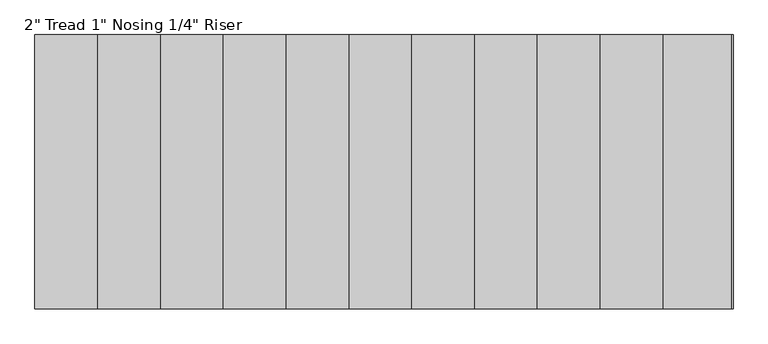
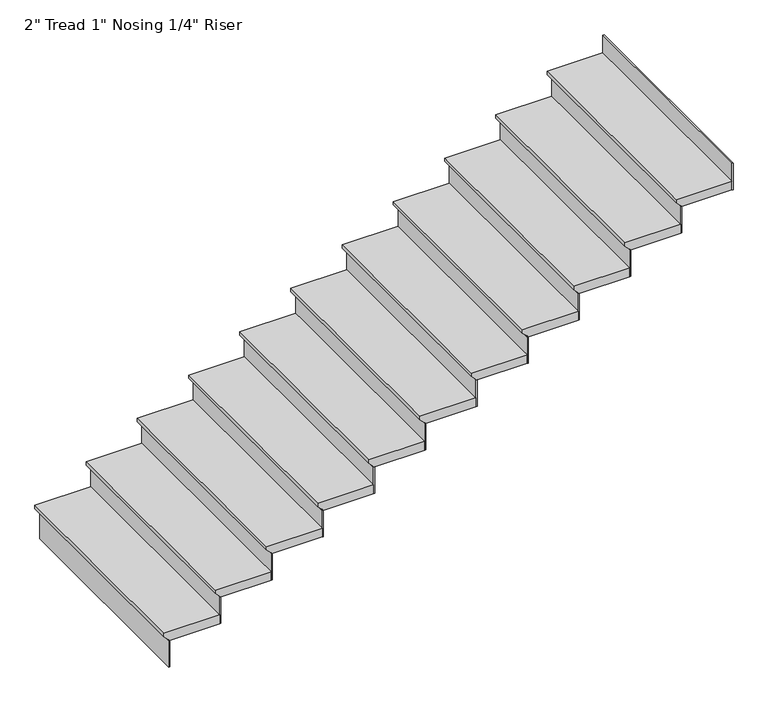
"""IFC4 building model written with IfcOpenShell, lengths in millimetres: stair flight geometry."""

import ifcopenshell
import ifcopenshell.guid

model = None  # the IFC model being written
_history = None  # IfcOwnerHistory: only IFC2X3 demands one
_inside = {}  # id of a spatial element -> (the spatial element, [elements in it])
_under = {}  # id of a project, library or spatial element -> (it, [spatial elements below it])
_declared = {}  # id of a project -> (the project, [libraries it declares])
_typed = {}  # id of a type object -> (the type object, [elements of that type])
_made_of = {}  # id of a material, layer set ... -> (it, [elements and type objects made of it])


def new_model(schema):
    """Start an empty IFC model of exactly this schema.

    Asked for "IFC4X3", IfcOpenShell would pick the latest addendum, in which some entities
    have other attributes; the version numbers below select the first issue.
    IFC2X3 requires an IfcOwnerHistory on every rooted entity: one is made here for all.
    """
    global model, _history
    if schema == "IFC4X3":
        model = ifcopenshell.file(schema_version=(4, 3, 0, 0))
    else:
        model = ifcopenshell.file(schema=schema)
    _inside.clear()
    _under.clear()
    _declared.clear()
    _typed.clear()
    _made_of.clear()
    _history = None
    if model.schema == "IFC2X3":
        org = make("IfcOrganization", Name="unknown")
        user = make(
            "IfcPersonAndOrganization",
            ThePerson=make("IfcPerson", FamilyName="unknown"),
            TheOrganization=org,
        )
        app = make(
            "IfcApplication",
            ApplicationDeveloper=org,
            Version="unknown",
            ApplicationFullName="unknown",
            ApplicationIdentifier="unknown",
        )
        _history = make(
            "IfcOwnerHistory",
            OwningUser=user,
            OwningApplication=app,
            ChangeAction="ADDED",
            CreationDate=0,
        )
    return model


def make(cls, **values):
    """One entity of the class cls with the attributes given. An attribute that is None is left unset."""
    return model.create_entity(
        cls, **{name: value for name, value in values.items() if value is not None}
    )


def rooted(cls, **values):
    """An entity with a GlobalId (a new one), such as an element, a storey or a relation."""
    return make(cls, GlobalId=ifcopenshell.guid.new(), OwnerHistory=_history, **values)


def si_unit(unit_type, name, prefix=None):
    """IfcSIUnit, for example si_unit("LENGTHUNIT", "METRE", prefix="MILLI")."""
    return make("IfcSIUnit", UnitType=unit_type, Prefix=prefix, Name=name)


def assignment(units):
    """IfcUnitAssignment: the units of a project."""
    return None if units is None else make("IfcUnitAssignment", Units=units)


def point(xyz):
    """IfcCartesianPoint."""
    return None if xyz is None else make("IfcCartesianPoint", Coordinates=xyz)


def direction(xyz):
    """IfcDirection."""
    return None if xyz is None else make("IfcDirection", DirectionRatios=xyz)


def frame(location, z_axis=None, x_axis=None):
    """IfcAxis2Placement3D, a coordinate frame: its origin and axes. An axis left out is left unset."""
    return make(
        "IfcAxis2Placement3D",
        Location=point(location),
        Axis=direction(z_axis),
        RefDirection=direction(x_axis),
    )


def origin():
    """The frame at (0, 0, 0) with its axes left unset."""
    return frame((0.0, 0.0, 0.0))


def place(relative_to, where):
    """IfcLocalPlacement: puts the frame where relative to a parent placement (None: the world)."""
    return make(
        "IfcLocalPlacement", PlacementRelTo=relative_to, RelativePlacement=where
    )


def context(
    kind, dimensions, precision=None, world=None, true_north=None, identifier=None
):
    """IfcGeometricRepresentationContext, for example the 3D "Model" context."""
    return make(
        "IfcGeometricRepresentationContext",
        ContextIdentifier=identifier,
        ContextType=kind,
        CoordinateSpaceDimension=dimensions,
        Precision=precision,
        WorldCoordinateSystem=world,
        TrueNorth=true_north,
    )


def project(units=None, contexts=None):
    """IfcProject with its units and contexts."""
    return rooted(
        "IfcProject",
        Name="project",
        RepresentationContexts=contexts,
        UnitsInContext=assignment(units),
    )


def spatial(cls, under=None, at=None, **own):
    """A site, building, storey or space (cls), placed at a placement, below another one or the project."""
    s = rooted(cls, ObjectPlacement=at, **own)
    if under is not None:
        _under.setdefault(under.id(), (under, []))[1].append(s)
    return s


def polyline(points):
    """IfcPolyline through the points."""
    return make("IfcPolyline", Points=[point(p) for p in points])


def outline(outer, holes=None, kind="AREA"):
    """IfcArbitraryClosedProfileDef: a profile drawn as a closed curve; with holes, ...WithVoids."""
    if holes is None:
        return make("IfcArbitraryClosedProfileDef", ProfileType=kind, OuterCurve=outer)
    return make(
        "IfcArbitraryProfileDefWithVoids",
        ProfileType=kind,
        OuterCurve=outer,
        InnerCurves=holes,
    )


def extrude(swept, where, along, depth):
    """IfcExtrudedAreaSolid: the profile swept, set in the frame where, extruded along a direction by depth."""
    return make(
        "IfcExtrudedAreaSolid",
        SweptArea=swept,
        Position=where,
        ExtrudedDirection=direction(along),
        Depth=depth,
    )


def shape(context_of_items, identifier, shape_type, items):
    """IfcShapeRepresentation: the items that make up one representation, for example the "Body"."""
    return make(
        "IfcShapeRepresentation",
        ContextOfItems=context_of_items,
        RepresentationIdentifier=identifier,
        RepresentationType=shape_type,
        Items=items,
    )


def source(mapping_origin, context_of_items, identifier, shape_type, items):
    """IfcRepresentationMap: a shape defined once, which mapped items show again and again."""
    return make(
        "IfcRepresentationMap",
        MappingOrigin=mapping_origin,
        MappedRepresentation=shape(context_of_items, identifier, shape_type, items),
    )


def transform(
    local_origin,
    x_axis=None,
    y_axis=None,
    z_axis=None,
    scale=None,
    scale2=None,
    scale3=None,
    uniform=True,
):
    """IfcCartesianTransformationOperator3D, or its non-uniform kind. x_axis, y_axis, z_axis: its Axis1, 2, 3."""
    if uniform:
        return make(
            "IfcCartesianTransformationOperator3D",
            Axis1=direction(x_axis),
            Axis2=direction(y_axis),
            LocalOrigin=point(local_origin),
            Scale=scale,
            Axis3=direction(z_axis),
        )
    return make(
        "IfcCartesianTransformationOperator3DnonUniform",
        Axis1=direction(x_axis),
        Axis2=direction(y_axis),
        LocalOrigin=point(local_origin),
        Scale=scale,
        Axis3=direction(z_axis),
        Scale2=scale2,
        Scale3=scale3,
    )


def mapped(mapping_source, mapping_target):
    """IfcMappedItem: shows the shape of a source again, moved by a transform."""
    return make(
        "IfcMappedItem", MappingSource=mapping_source, MappingTarget=mapping_target
    )


def made_of(thing, what):
    """Note that an element or type object is made of a material, layer set ...; save() writes the relation."""
    if what is not None:
        _made_of.setdefault(what.id(), (what, []))[1].append(thing)
    return thing


def element(
    cls,
    number,
    at=None,
    inside=None,
    cuts=None,
    type_object=None,
    material=None,
    context=None,
    identifier="Body",
    shape_type=None,
    held_by="IfcProductDefinitionShape",
    body=None,
    shapes=None,
    **own,
):
    """One element of the class cls, such as IfcWall. Its Tag is "e" and its number.

    at: its placement. inside: the storey or other place that contains it. cuts: it is an
    opening in that element (IfcRelVoidsElement). A single representation is given by context,
    identifier, shape_type and body (its items); several are given by shapes. held_by: the class
    of the entity that holds the representations. save() writes the other relations.
    """
    e = rooted(cls, Tag="e%d" % number, ObjectPlacement=at, **own)
    if body is not None:
        shapes = [shape(context, identifier, shape_type, body)]
    if shapes is not None:
        e.Representation = make(held_by, Representations=shapes)
    if inside is not None:
        _inside.setdefault(inside.id(), (inside, []))[1].append(e)
    if cuts is not None:
        rooted(
            "IfcRelVoidsElement", RelatingBuildingElement=cuts, RelatedOpeningElement=e
        )
    if type_object is not None:
        _typed.setdefault(type_object.id(), (type_object, []))[1].append(e)
    return made_of(e, material)


def aggregate(whole, parts):
    """IfcRelAggregates: a whole, such as a stair, and the parts it consists of."""
    return rooted("IfcRelAggregates", RelatingObject=whole, RelatedObjects=parts)


def save(model, path):
    """Write the relations noted so far, then the file.

    IfcRelAggregates (storeys below a building ...), IfcRelContainedInSpatialStructure (elements
    in a storey), IfcRelDefinesByType, IfcRelAssociatesMaterial and IfcRelDeclares: one each for
    every whole, place, type object, material and project.
    """
    for whole, parts in _under.values():
        aggregate(whole, parts)
    for where, things in _inside.values():
        rooted(
            "IfcRelContainedInSpatialStructure",
            RelatedElements=things,
            RelatingStructure=where,
        )
    for kind, things in _typed.values():
        rooted("IfcRelDefinesByType", RelatedObjects=things, RelatingType=kind)
    for what, things in _made_of.values():
        rooted("IfcRelAssociatesMaterial", RelatedObjects=things, RelatingMaterial=what)
    for by, libraries in _declared.values():
        rooted("IfcRelDeclares", RelatingContext=by, RelatedDefinitions=libraries)
    model.write(path)


def stair_flight_21803907(model_context):
    return source(origin(), model_context, "Body", "SweptSolid", [
        extrude(outline(polyline([(2895.6, -17516.1273699), (2895.6, -17820.9273699), (2876.55, -17820.9273699), (2851.15, -17795.5273699), (2844.8, -17795.5273699), (2844.8, -17516.1273699), (2895.6, -17516.1273699)])), frame((0.0, -12212.8253362, 0.0), z_axis=(0.0, 1.0, 0.0), x_axis=(0.0, 0.0, 1.0)), (0.0, 0.0, 1.0), 1219.2),
        extrude(outline(polyline([(-17789.1773699, -12212.8253362), (-17795.5273699, -12212.8253362), (-17795.5273699, -10993.6253362), (-17789.1773699, -10993.6253362), (-17789.1773699, -12212.8253362)])), frame((0.0, 0.0, 2692.4), z_axis=(0.0, 0.0, 1.0), x_axis=(1.0, 0.0, 0.0)), (0.0, 0.0, 1.0), 152.4),
        extrude(outline(polyline([(-17509.7773699, -12212.8253362), (-17516.1273699, -12212.8253362), (-17516.1273699, -10993.6253362), (-17509.7773699, -10993.6253362), (-17509.7773699, -12212.8253362)])), frame((0.0, 0.0, 2844.8), z_axis=(0.0, 0.0, 1.0), x_axis=(1.0, 0.0, 0.0)), (0.0, 0.0, 1.0), 152.4),
        extrude(outline(polyline([(3048.0, -17236.7273699), (3048.0, -17541.5273699), (3028.95, -17541.5273699), (3003.55, -17516.1273699), (2997.2, -17516.1273699), (2997.2, -17236.7273699), (3048.0, -17236.7273699)])), frame((0.0, -12212.8253362, 0.0), z_axis=(0.0, 1.0, 0.0), x_axis=(0.0, 0.0, 1.0)), (0.0, 0.0, 1.0), 1219.2),
        extrude(outline(polyline([(-17230.3773699, -12212.8253362), (-17236.7273699, -12212.8253362), (-17236.7273699, -10993.6253362), (-17230.3773699, -10993.6253362), (-17230.3773699, -12212.8253362)])), frame((0.0, 0.0, 2997.2), z_axis=(0.0, 0.0, 1.0), x_axis=(1.0, 0.0, 0.0)), (0.0, 0.0, 1.0), 152.4),
        extrude(outline(polyline([(3200.4, -16957.3273699), (3200.4, -17262.1273699), (3181.35, -17262.1273699), (3155.95, -17236.7273699), (3149.6, -17236.7273699), (3149.6, -16957.3273699), (3200.4, -16957.3273699)])), frame((0.0, -12212.8253362, 0.0), z_axis=(0.0, 1.0, 0.0), x_axis=(0.0, 0.0, 1.0)), (0.0, 0.0, 1.0), 1219.2),
        extrude(outline(polyline([(-16950.9773699, -12212.8253362), (-16957.3273699, -12212.8253362), (-16957.3273699, -10993.6253362), (-16950.9773699, -10993.6253362), (-16950.9773699, -12212.8253362)])), frame((0.0, 0.0, 3149.6), z_axis=(0.0, 0.0, 1.0), x_axis=(1.0, 0.0, 0.0)), (0.0, 0.0, 1.0), 152.4),
        extrude(outline(polyline([(3352.8, -16677.9273699), (3352.8, -16982.7273699), (3333.75, -16982.7273699), (3308.35, -16957.3273699), (3302.0, -16957.3273699), (3302.0, -16677.9273699), (3352.8, -16677.9273699)])), frame((0.0, -12212.8253362, 0.0), z_axis=(0.0, 1.0, 0.0), x_axis=(0.0, 0.0, 1.0)), (0.0, 0.0, 1.0), 1219.2),
        extrude(outline(polyline([(-16671.5773699, -12212.8253362), (-16677.9273699, -12212.8253362), (-16677.9273699, -10993.6253362), (-16671.5773699, -10993.6253362), (-16671.5773699, -12212.8253362)])), frame((0.0, 0.0, 3302.0), z_axis=(0.0, 0.0, 1.0), x_axis=(1.0, 0.0, 0.0)), (0.0, 0.0, 1.0), 152.4),
        extrude(outline(polyline([(3505.2, -16398.5273699), (3505.2, -16703.3273699), (3486.15, -16703.3273699), (3460.75, -16677.9273699), (3454.4, -16677.9273699), (3454.4, -16398.5273699), (3505.2, -16398.5273699)])), frame((0.0, -12212.8253362, 0.0), z_axis=(0.0, 1.0, 0.0), x_axis=(0.0, 0.0, 1.0)), (0.0, 0.0, 1.0), 1219.2),
        extrude(outline(polyline([(-16392.1773699, -12212.8253362), (-16398.5273699, -12212.8253362), (-16398.5273699, -10993.6253362), (-16392.1773699, -10993.6253362), (-16392.1773699, -12212.8253362)])), frame((0.0, 0.0, 3454.4), z_axis=(0.0, 0.0, 1.0), x_axis=(1.0, 0.0, 0.0)), (0.0, 0.0, 1.0), 152.4),
        extrude(outline(polyline([(3657.6, -16119.1273699), (3657.6, -16423.9273699), (3638.55, -16423.9273699), (3613.15, -16398.5273699), (3606.8, -16398.5273699), (3606.8, -16119.1273699), (3657.6, -16119.1273699)])), frame((0.0, -12212.8253362, 0.0), z_axis=(0.0, 1.0, 0.0), x_axis=(0.0, 0.0, 1.0)), (0.0, 0.0, 1.0), 1219.2),
        extrude(outline(polyline([(-16112.7773699, -12212.8253362), (-16119.1273699, -12212.8253362), (-16119.1273699, -10993.6253362), (-16112.7773699, -10993.6253362), (-16112.7773699, -12212.8253362)])), frame((0.0, 0.0, 3606.8), z_axis=(0.0, 0.0, 1.0), x_axis=(1.0, 0.0, 0.0)), (0.0, 0.0, 1.0), 152.4),
        extrude(outline(polyline([(3810.0, -15839.7273699), (3810.0, -16144.5273699), (3790.95, -16144.5273699), (3765.55, -16119.1273699), (3759.2, -16119.1273699), (3759.2, -15839.7273699), (3810.0, -15839.7273699)])), frame((0.0, -12212.8253362, 0.0), z_axis=(0.0, 1.0, 0.0), x_axis=(0.0, 0.0, 1.0)), (0.0, 0.0, 1.0), 1219.2),
        extrude(outline(polyline([(-15833.3773699, -12212.8253362), (-15839.7273699, -12212.8253362), (-15839.7273699, -10993.6253362), (-15833.3773699, -10993.6253362), (-15833.3773699, -12212.8253362)])), frame((0.0, 0.0, 3759.2), z_axis=(0.0, 0.0, 1.0), x_axis=(1.0, 0.0, 0.0)), (0.0, 0.0, 1.0), 152.4),
        extrude(outline(polyline([(3962.4, -15560.3273699), (3962.4, -15865.1273699), (3943.35, -15865.1273699), (3917.95, -15839.7273699), (3911.6, -15839.7273699), (3911.6, -15560.3273699), (3962.4, -15560.3273699)])), frame((0.0, -12212.8253362, 0.0), z_axis=(0.0, 1.0, 0.0), x_axis=(0.0, 0.0, 1.0)), (0.0, 0.0, 1.0), 1219.2),
        extrude(outline(polyline([(-15553.9773699, -12212.8253362), (-15560.3273699, -12212.8253362), (-15560.3273699, -10993.6253362), (-15553.9773699, -10993.6253362), (-15553.9773699, -12212.8253362)])), frame((0.0, 0.0, 3911.6), z_axis=(0.0, 0.0, 1.0), x_axis=(1.0, 0.0, 0.0)), (0.0, 0.0, 1.0), 152.4),
        extrude(outline(polyline([(4114.8, -15280.9273699), (4114.8, -15585.7273699), (4095.75, -15585.7273699), (4070.35, -15560.3273699), (4064.0, -15560.3273699), (4064.0, -15280.9273699), (4114.8, -15280.9273699)])), frame((0.0, -12212.8253362, 0.0), z_axis=(0.0, 1.0, 0.0), x_axis=(0.0, 0.0, 1.0)), (0.0, 0.0, 1.0), 1219.2),
        extrude(outline(polyline([(-15274.5773699, -12212.8253362), (-15280.9273699, -12212.8253362), (-15280.9273699, -10993.6253362), (-15274.5773699, -10993.6253362), (-15274.5773699, -12212.8253362)])), frame((0.0, 0.0, 4064.0), z_axis=(0.0, 0.0, 1.0), x_axis=(1.0, 0.0, 0.0)), (0.0, 0.0, 1.0), 152.4),
        extrude(outline(polyline([(4267.2, -15001.5273699), (4267.2, -15306.3273699), (4248.15, -15306.3273699), (4222.75, -15280.9273699), (4216.4, -15280.9273699), (4216.4, -15001.5273699), (4267.2, -15001.5273699)])), frame((0.0, -12212.8253362, 0.0), z_axis=(0.0, 1.0, 0.0), x_axis=(0.0, 0.0, 1.0)), (0.0, 0.0, 1.0), 1219.2),
        extrude(outline(polyline([(-14995.1773699, -12212.8253362), (-15001.5273699, -12212.8253362), (-15001.5273699, -10993.6253362), (-14995.1773699, -10993.6253362), (-14995.1773699, -12212.8253362)])), frame((0.0, 0.0, 4216.4), z_axis=(0.0, 0.0, 1.0), x_axis=(1.0, 0.0, 0.0)), (0.0, 0.0, 1.0), 152.4),
        extrude(outline(polyline([(-14715.7773699, -12212.8253362), (-14722.1273699, -12212.8253362), (-14722.1273699, -10993.6253362), (-14715.7773699, -10993.6253362), (-14715.7773699, -12212.8253362)])), frame((0.0, 0.0, 4368.8), z_axis=(0.0, 0.0, 1.0), x_axis=(1.0, 0.0, 0.0)), (0.0, 0.0, 1.0), 152.4),
        extrude(outline(polyline([(4419.6, -14722.1273699), (4419.6, -15026.9273699), (4400.55, -15026.9273699), (4375.15, -15001.5273699), (4368.8, -15001.5273699), (4368.8, -14722.1273699), (4419.6, -14722.1273699)])), frame((0.0, -12212.8253362, 0.0), z_axis=(0.0, 1.0, 0.0), x_axis=(0.0, 0.0, 1.0)), (0.0, 0.0, 1.0), 1219.2),
    ])


if __name__ == "__main__":
    model = new_model("IFC4")
    model_context = context("Model", 3, world=origin())
    ifc_project = project(units=[si_unit("LENGTHUNIT", "METRE", prefix="MILLI")], contexts=[model_context])
    site = spatial("IfcSite", under=ifc_project)
    building = spatial("IfcBuilding", under=site)
    placement = place(None, origin())
    stair_flight_shape = stair_flight_21803907(model_context)
    element("IfcStairFlight", 1, ObjectType="2\" Tread 1\" Nosing 1/4\" Riser", at=placement, inside=building, context=model_context, shape_type="MappedRepresentation", body=[
        mapped(stair_flight_shape, transform((0.0, 0.0, 0.0), x_axis=(1.0, 0.0, 0.0), y_axis=(0.0, 1.0, 0.0), z_axis=(0.0, 0.0, 1.0))),
    ])
    save(model, "model.ifc")
